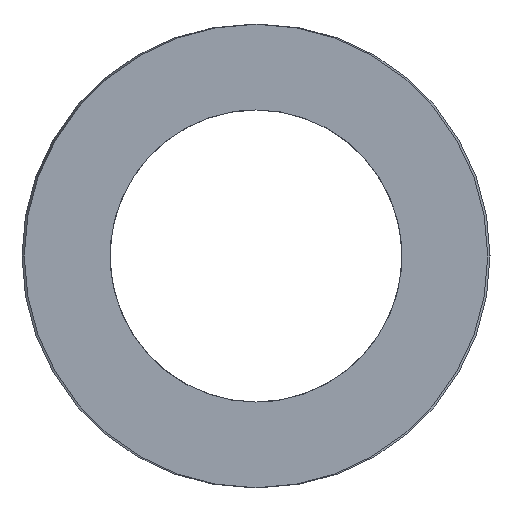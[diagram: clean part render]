
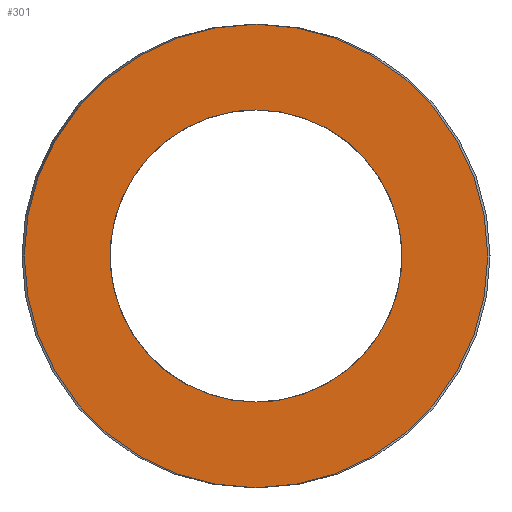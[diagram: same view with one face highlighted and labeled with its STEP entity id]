
A CAD part, left-side view. The second image highlights one B-rep face of the part: STEP entity #301.
In plain terms, the highlighted planar face has unit normal (-1, 0, 0).
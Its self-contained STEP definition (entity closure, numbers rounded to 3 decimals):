
#63=CARTESIAN_POINT('Vertex',(0.,31.1,0.)) ;
#77=CARTESIAN_POINT('Vertex',(0.,-31.1,0.)) ;
#80=CARTESIAN_POINT('Axis2P3D Location',(0.,0.,0.)) ;
#97=CARTESIAN_POINT('Axis2P3D Location',(0.,0.,0.)) ;
#232=CARTESIAN_POINT('Axis2P3D Location',(0.,15.55,0.)) ;
#242=CARTESIAN_POINT('Control Point',(0.,0.,-19.6)) ;
#243=CARTESIAN_POINT('Control Point',(0.,1.952,-19.6)) ;
#244=CARTESIAN_POINT('Control Point',(0.,3.904,-19.357)) ;
#245=CARTESIAN_POINT('Control Point',(0.,5.816,-18.871)) ;
#246=CARTESIAN_POINT('Control Point',(0.,9.478,-17.433)) ;
#247=CARTESIAN_POINT('Control Point',(0.,12.675,-15.142)) ;
#248=CARTESIAN_POINT('Control Point',(0.,14.123,-13.802)) ;
#249=CARTESIAN_POINT('Control Point',(0.,16.653,-10.789)) ;
#250=CARTESIAN_POINT('Control Point',(0.,18.368,-7.249)) ;
#251=CARTESIAN_POINT('Control Point',(0.,19.,-5.38)) ;
#252=CARTESIAN_POINT('Control Point',(0.,19.784,-1.525)) ;
#253=CARTESIAN_POINT('Control Point',(0.,19.6,2.405)) ;
#254=CARTESIAN_POINT('Control Point',(0.,19.262,4.348)) ;
#255=CARTESIAN_POINT('Control Point',(0.,18.11,8.11)) ;
#256=CARTESIAN_POINT('Control Point',(0.,16.071,11.474)) ;
#257=CARTESIAN_POINT('Control Point',(0.,14.846,13.02)) ;
#258=CARTESIAN_POINT('Control Point',(0.,12.037,15.775)) ;
#259=CARTESIAN_POINT('Control Point',(0.,8.639,17.757)) ;
#260=CARTESIAN_POINT('Control Point',(0.,6.824,18.53)) ;
#261=CARTESIAN_POINT('Control Point',(0.,4.349,19.236)) ;
#262=CARTESIAN_POINT('Control Point',(0.,1.809,19.53)) ;
#263=CARTESIAN_POINT('Control Point',(0.,1.206,19.577)) ;
#264=CARTESIAN_POINT('Control Point',(0.,0.603,19.6)) ;
#265=CARTESIAN_POINT('Control Point',(0.,0.,19.6)) ;
#266=CARTESIAN_POINT('Vertex',(0.,0.,-19.6)) ;
#268=CARTESIAN_POINT('Vertex',(0.,0.,19.6)) ;
#272=CARTESIAN_POINT('Control Point',(0.,0.,19.6)) ;
#273=CARTESIAN_POINT('Control Point',(0.,-1.952,19.6)) ;
#274=CARTESIAN_POINT('Control Point',(0.,-3.904,19.357)) ;
#275=CARTESIAN_POINT('Control Point',(0.,-5.816,18.871)) ;
#276=CARTESIAN_POINT('Control Point',(0.,-9.478,17.433)) ;
#277=CARTESIAN_POINT('Control Point',(0.,-12.675,15.142)) ;
#278=CARTESIAN_POINT('Control Point',(0.,-14.123,13.802)) ;
#279=CARTESIAN_POINT('Control Point',(0.,-16.653,10.789)) ;
#280=CARTESIAN_POINT('Control Point',(0.,-18.368,7.249)) ;
#281=CARTESIAN_POINT('Control Point',(0.,-19.,5.38)) ;
#282=CARTESIAN_POINT('Control Point',(0.,-19.784,1.525)) ;
#283=CARTESIAN_POINT('Control Point',(0.,-19.6,-2.405)) ;
#284=CARTESIAN_POINT('Control Point',(0.,-19.262,-4.348)) ;
#285=CARTESIAN_POINT('Control Point',(0.,-18.11,-8.11)) ;
#286=CARTESIAN_POINT('Control Point',(0.,-16.071,-11.474)) ;
#287=CARTESIAN_POINT('Control Point',(0.,-14.846,-13.02)) ;
#288=CARTESIAN_POINT('Control Point',(0.,-12.037,-15.775)) ;
#289=CARTESIAN_POINT('Control Point',(0.,-8.639,-17.757)) ;
#290=CARTESIAN_POINT('Control Point',(0.,-6.824,-18.53)) ;
#291=CARTESIAN_POINT('Control Point',(0.,-4.349,-19.236)) ;
#292=CARTESIAN_POINT('Control Point',(0.,-1.809,-19.53)) ;
#293=CARTESIAN_POINT('Control Point',(0.,-1.206,-19.577)) ;
#294=CARTESIAN_POINT('Control Point',(0.,-0.603,-19.6)) ;
#295=CARTESIAN_POINT('Control Point',(0.,0.,-19.6)) ;
#81=DIRECTION('Axis2P3D Direction',(1.,-0.,0.)) ;
#98=DIRECTION('Axis2P3D Direction',(1.,-0.,0.)) ;
#233=DIRECTION('Axis2P3D Direction',(-1.,0.,0.)) ;
#234=DIRECTION('Axis2P3D XDirection',(0.,1.,0.)) ;
#82=AXIS2_PLACEMENT_3D('Circle Axis2P3D',#80,#81,$) ;
#99=AXIS2_PLACEMENT_3D('Circle Axis2P3D',#97,#98,$) ;
#235=AXIS2_PLACEMENT_3D('Plane Axis2P3D',#232,#233,#234) ;
#238=ORIENTED_EDGE('',*,*,#84,.T.) ;
#239=ORIENTED_EDGE('',*,*,#101,.T.) ;
#298=ORIENTED_EDGE('',*,*,#270,.T.) ;
#299=ORIENTED_EDGE('',*,*,#296,.T.) ;
#300=FACE_BOUND('',#297,.T.) ;
#301=ADVANCED_FACE('392-B63-305',(#240,#300),#236,.T.) ;
#241=B_SPLINE_CURVE_WITH_KNOTS('',5,(#242,#243,#244,#245,#246,#247,#248,#249,#250,#251,#252,#253,#254,#255,#256,#257,#258,#259,#260,#261,#262,#263,#264,#265),.UNSPECIFIED.,.F.,.U.,(6,3,3,3,3,3,3,6),(0.,13.802,27.605,41.407,55.21,69.012,82.815,87.077),.UNSPECIFIED.) ;
#271=B_SPLINE_CURVE_WITH_KNOTS('',5,(#272,#273,#274,#275,#276,#277,#278,#279,#280,#281,#282,#283,#284,#285,#286,#287,#288,#289,#290,#291,#292,#293,#294,#295),.UNSPECIFIED.,.F.,.U.,(6,3,3,3,3,3,3,6),(0.,13.802,27.605,41.407,55.21,69.012,82.815,87.077),.UNSPECIFIED.) ;
#83=CIRCLE('generated circle',#82,31.1) ;
#100=CIRCLE('generated circle',#99,31.1) ;
#84=EDGE_CURVE('',#64,#78,#83,.F.) ;
#101=EDGE_CURVE('',#78,#64,#100,.F.) ;
#270=EDGE_CURVE('',#267,#269,#241,.T.) ;
#296=EDGE_CURVE('',#269,#267,#271,.T.) ;
#237=EDGE_LOOP('',(#238,#239)) ;
#297=EDGE_LOOP('',(#298,#299)) ;
#240=FACE_OUTER_BOUND('',#237,.T.) ;
#236=PLANE('Plane',#235) ;
#64=VERTEX_POINT('',#63) ;
#78=VERTEX_POINT('',#77) ;
#267=VERTEX_POINT('',#266) ;
#269=VERTEX_POINT('',#268) ;
